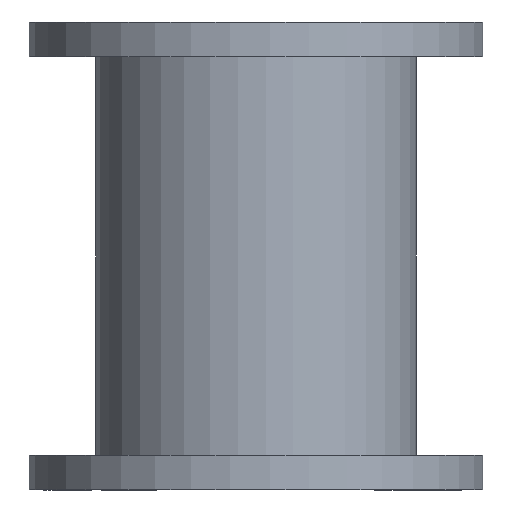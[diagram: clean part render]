
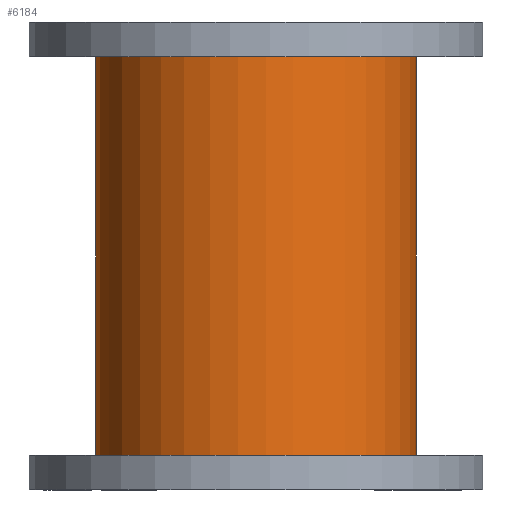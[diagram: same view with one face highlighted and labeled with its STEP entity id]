
A CAD part, front view. The second image highlights one B-rep face of the part: STEP entity #6184.
In plain terms, the highlighted cylindrical face has radius 120 mm (diameter 240 mm), a partial arc.
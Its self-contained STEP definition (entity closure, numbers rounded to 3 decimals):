
#599 = ORIENTED_EDGE ( 'NONE', *, *, #9265, .T. ) ;
#726 = CARTESIAN_POINT ( 'NONE',  ( 0., 0., -155. ) ) ;
#1443 = EDGE_CURVE ( 'NONE', #5015, #6057, #3356, .T. ) ;
#1619 = EDGE_CURVE ( 'NONE', #5416, #3002, #4976, .T. ) ;
#2381 = DIRECTION ( 'NONE',  ( 1., 0., 0. ) ) ;
#2634 = VECTOR ( 'NONE', #7476, 1000. ) ;
#2987 = AXIS2_PLACEMENT_3D ( 'NONE', #9789, #12611, #2381 ) ;
#3002 = VERTEX_POINT ( 'NONE', #11898 ) ;
#3356 = LINE ( 'NONE', #8632, #2634 ) ;
#4357 = VECTOR ( 'NONE', #9098, 1000. ) ;
#4590 = AXIS2_PLACEMENT_3D ( 'NONE', #7484, #9624, #9548 ) ;
#4976 = LINE ( 'NONE', #12409, #4357 ) ;
#5015 = VERTEX_POINT ( 'NONE', #5072 ) ;
#5072 = CARTESIAN_POINT ( 'NONE',  ( 120., 0., -149. ) ) ;
#5242 = CIRCLE ( 'NONE', #4590, 120. ) ;
#5416 = VERTEX_POINT ( 'NONE', #5634 ) ;
#5634 = CARTESIAN_POINT ( 'NONE',  ( -120., 0., -149. ) ) ;
#5649 = CYLINDRICAL_SURFACE ( 'NONE', #10098, 120. ) ;
#5784 = FACE_OUTER_BOUND ( 'NONE', #8291, .T. ) ;
#5846 = DIRECTION ( 'NONE',  ( 0., 0., 1. ) ) ;
#6057 = VERTEX_POINT ( 'NONE', #7321 ) ;
#6184 = ADVANCED_FACE ( 'NONE', ( #5784 ), #5649, .T. ) ;
#6666 = ORIENTED_EDGE ( 'NONE', *, *, #13069, .F. ) ;
#7321 = CARTESIAN_POINT ( 'NONE',  ( 120., 0., 149. ) ) ;
#7476 = DIRECTION ( 'NONE',  ( 0., 0., 1. ) ) ;
#7484 = CARTESIAN_POINT ( 'NONE',  ( 0., 0., 149. ) ) ;
#8194 = CIRCLE ( 'NONE', #2987, 120. ) ;
#8291 = EDGE_LOOP ( 'NONE', ( #11402, #599, #10606, #6666 ) ) ;
#8632 = CARTESIAN_POINT ( 'NONE',  ( 120., 0., -155. ) ) ;
#8819 = DIRECTION ( 'NONE',  ( 1., 0., 0. ) ) ;
#9098 = DIRECTION ( 'NONE',  ( 0., 0., 1. ) ) ;
#9265 = EDGE_CURVE ( 'NONE', #5416, #5015, #8194, .T. ) ;
#9548 = DIRECTION ( 'NONE',  ( 1., 0., 0. ) ) ;
#9624 = DIRECTION ( 'NONE',  ( 0., 0., 1. ) ) ;
#9789 = CARTESIAN_POINT ( 'NONE',  ( 0., 0., -149. ) ) ;
#10098 = AXIS2_PLACEMENT_3D ( 'NONE', #726, #5846, #8819 ) ;
#10606 = ORIENTED_EDGE ( 'NONE', *, *, #1443, .T. ) ;
#11402 = ORIENTED_EDGE ( 'NONE', *, *, #1619, .F. ) ;
#11898 = CARTESIAN_POINT ( 'NONE',  ( -120., 0., 149. ) ) ;
#12409 = CARTESIAN_POINT ( 'NONE',  ( -120., 0., -155. ) ) ;
#12611 = DIRECTION ( 'NONE',  ( 0., 0., 1. ) ) ;
#13069 = EDGE_CURVE ( 'NONE', #3002, #6057, #5242, .T. ) ;
